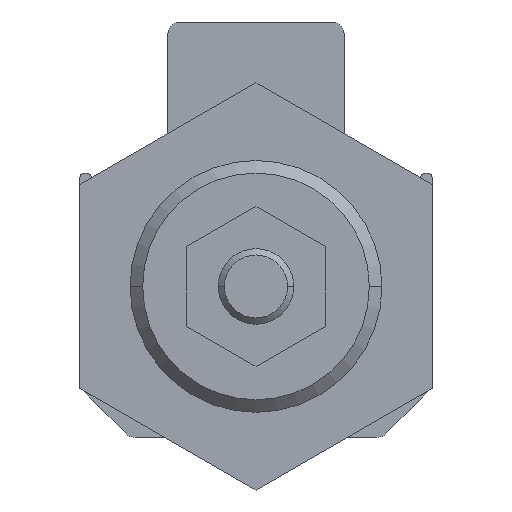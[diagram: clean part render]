
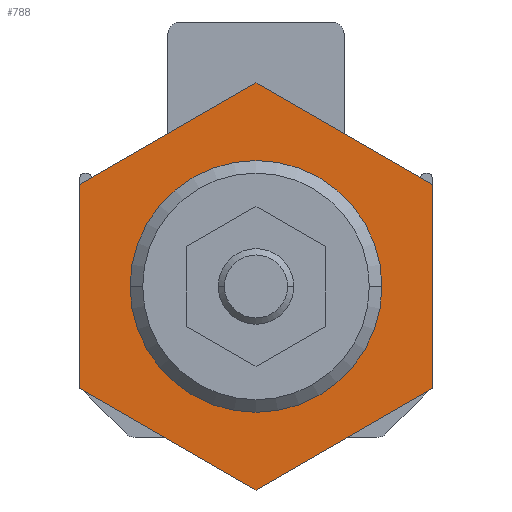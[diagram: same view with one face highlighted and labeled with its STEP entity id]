
A CAD part, front view. The second image highlights one B-rep face of the part: STEP entity #788.
In plain terms, the highlighted planar face has unit normal (0, -1, 0).
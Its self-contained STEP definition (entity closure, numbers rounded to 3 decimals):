
#306=CARTESIAN_POINT('',(-5.0,-41.5,6.));
#307=VERTEX_POINT('',#306);
#316=CARTESIAN_POINT('',(5.0,-41.5,6.));
#317=VERTEX_POINT('',#316);
#318=CARTESIAN_POINT('',(0.0,-41.5,6.));
#319=DIRECTION('',(0.0,-1.0,0.0));
#320=DIRECTION('',(-1.0,0.0,0.0));
#321=AXIS2_PLACEMENT_3D('',#318,#319,#320);
#322=CIRCLE('',#321,5.0);
#323=EDGE_CURVE('',#307,#317,#322,.T.);
#723=CARTESIAN_POINT('',(0.,-41.5,6.));
#724=DIRECTION('',(0.0,1.0,0.0));
#725=DIRECTION('',(0.0,0.0,1.0));
#726=AXIS2_PLACEMENT_3D('',#723,#724,#725);
#727=PLANE('',#726);
#728=CARTESIAN_POINT('',(7.,-41.5,1.959));
#729=VERTEX_POINT('',#728);
#730=CARTESIAN_POINT('',(0.,-41.5,-2.083));
#731=VERTEX_POINT('',#730);
#732=CARTESIAN_POINT('',(7.,-41.5,1.959));
#733=DIRECTION('',(-0.866,0.0,-0.5));
#734=VECTOR('',#733,8.083);
#735=LINE('',#732,#734);
#736=EDGE_CURVE('',#729,#731,#735,.T.);
#737=ORIENTED_EDGE('',*,*,#736,.F.);
#738=CARTESIAN_POINT('',(7.,-41.5,10.041));
#739=VERTEX_POINT('',#738);
#740=CARTESIAN_POINT('',(7.,-41.5,10.041));
#741=DIRECTION('',(0.0,0.0,-1.0));
#742=VECTOR('',#741,8.083);
#743=LINE('',#740,#742);
#744=EDGE_CURVE('',#739,#729,#743,.T.);
#745=ORIENTED_EDGE('',*,*,#744,.F.);
#746=CARTESIAN_POINT('',(0.,-41.5,14.083));
#747=VERTEX_POINT('',#746);
#748=CARTESIAN_POINT('',(0.,-41.5,14.083));
#749=DIRECTION('',(0.866,0.0,-0.5));
#750=VECTOR('',#749,8.083);
#751=LINE('',#748,#750);
#752=EDGE_CURVE('',#747,#739,#751,.T.);
#753=ORIENTED_EDGE('',*,*,#752,.F.);
#754=CARTESIAN_POINT('',(-7.,-41.5,10.041));
#755=VERTEX_POINT('',#754);
#756=CARTESIAN_POINT('',(-7.,-41.5,10.041));
#757=DIRECTION('',(0.866,0.0,0.5));
#758=VECTOR('',#757,8.083);
#759=LINE('',#756,#758);
#760=EDGE_CURVE('',#755,#747,#759,.T.);
#761=ORIENTED_EDGE('',*,*,#760,.F.);
#762=CARTESIAN_POINT('',(-7.,-41.5,1.959));
#763=VERTEX_POINT('',#762);
#764=CARTESIAN_POINT('',(-7.,-41.5,1.959));
#765=DIRECTION('',(0.0,0.0,1.0));
#766=VECTOR('',#765,8.083);
#767=LINE('',#764,#766);
#768=EDGE_CURVE('',#763,#755,#767,.T.);
#769=ORIENTED_EDGE('',*,*,#768,.F.);
#770=CARTESIAN_POINT('',(0.,-41.5,-2.083));
#771=DIRECTION('',(-0.866,0.0,0.5));
#772=VECTOR('',#771,8.083);
#773=LINE('',#770,#772);
#774=EDGE_CURVE('',#731,#763,#773,.T.);
#775=ORIENTED_EDGE('',*,*,#774,.F.);
#776=EDGE_LOOP('',(#737,#745,#753,#761,#769,#775));
#777=FACE_OUTER_BOUND('',#776,.T.);
#778=CARTESIAN_POINT('',(0.0,-41.5,6.));
#779=DIRECTION('',(0.0,-1.0,0.0));
#780=DIRECTION('',(-1.0,0.0,0.0));
#781=AXIS2_PLACEMENT_3D('',#778,#779,#780);
#782=CIRCLE('',#781,5.0);
#783=EDGE_CURVE('',#317,#307,#782,.T.);
#784=ORIENTED_EDGE('',*,*,#783,.F.);
#785=ORIENTED_EDGE('',*,*,#323,.F.);
#786=EDGE_LOOP('',(#784,#785));
#787=FACE_BOUND('',#786,.T.);
#788=ADVANCED_FACE('',(#777,#787),#727,.F.);
